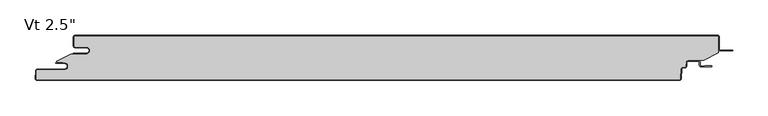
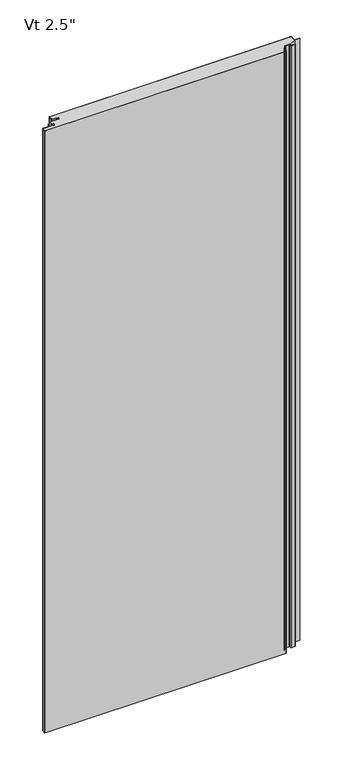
"""IFC4 building model written with IfcOpenShell, lengths in millimetres: plate geometry."""

import ifcopenshell
import ifcopenshell.guid

model = None  # the IFC model being written
_history = None  # IfcOwnerHistory: only IFC2X3 demands one
_inside = {}  # id of a spatial element -> (the spatial element, [elements in it])
_under = {}  # id of a project, library or spatial element -> (it, [spatial elements below it])
_declared = {}  # id of a project -> (the project, [libraries it declares])
_typed = {}  # id of a type object -> (the type object, [elements of that type])
_made_of = {}  # id of a material, layer set ... -> (it, [elements and type objects made of it])


def new_model(schema):
    """Start an empty IFC model of exactly this schema.

    Asked for "IFC4X3", IfcOpenShell would pick the latest addendum, in which some entities
    have other attributes; the version numbers below select the first issue.
    IFC2X3 requires an IfcOwnerHistory on every rooted entity: one is made here for all.
    """
    global model, _history
    if schema == "IFC4X3":
        model = ifcopenshell.file(schema_version=(4, 3, 0, 0))
    else:
        model = ifcopenshell.file(schema=schema)
    _inside.clear()
    _under.clear()
    _declared.clear()
    _typed.clear()
    _made_of.clear()
    _history = None
    if model.schema == "IFC2X3":
        org = make("IfcOrganization", Name="unknown")
        user = make(
            "IfcPersonAndOrganization",
            ThePerson=make("IfcPerson", FamilyName="unknown"),
            TheOrganization=org,
        )
        app = make(
            "IfcApplication",
            ApplicationDeveloper=org,
            Version="unknown",
            ApplicationFullName="unknown",
            ApplicationIdentifier="unknown",
        )
        _history = make(
            "IfcOwnerHistory",
            OwningUser=user,
            OwningApplication=app,
            ChangeAction="ADDED",
            CreationDate=0,
        )
    return model


def make(cls, **values):
    """One entity of the class cls with the attributes given. An attribute that is None is left unset."""
    return model.create_entity(
        cls, **{name: value for name, value in values.items() if value is not None}
    )


def rooted(cls, **values):
    """An entity with a GlobalId (a new one), such as an element, a storey or a relation."""
    return make(cls, GlobalId=ifcopenshell.guid.new(), OwnerHistory=_history, **values)


def si_unit(unit_type, name, prefix=None):
    """IfcSIUnit, for example si_unit("LENGTHUNIT", "METRE", prefix="MILLI")."""
    return make("IfcSIUnit", UnitType=unit_type, Prefix=prefix, Name=name)


def assignment(units):
    """IfcUnitAssignment: the units of a project."""
    return None if units is None else make("IfcUnitAssignment", Units=units)


def point(xyz):
    """IfcCartesianPoint."""
    return None if xyz is None else make("IfcCartesianPoint", Coordinates=xyz)


def direction(xyz):
    """IfcDirection."""
    return None if xyz is None else make("IfcDirection", DirectionRatios=xyz)


def frame(location, z_axis=None, x_axis=None):
    """IfcAxis2Placement3D, a coordinate frame: its origin and axes. An axis left out is left unset."""
    return make(
        "IfcAxis2Placement3D",
        Location=point(location),
        Axis=direction(z_axis),
        RefDirection=direction(x_axis),
    )


def frame_2d(location, x_axis=None):
    """IfcAxis2Placement2D, a coordinate frame in the plane: its origin and x axis."""
    return make(
        "IfcAxis2Placement2D", Location=point(location), RefDirection=direction(x_axis)
    )


def origin():
    """The frame at (0, 0, 0) with its axes left unset."""
    return frame((0.0, 0.0, 0.0))


def origin_with_axes():
    """The frame at (0, 0, 0) with the z axis (0, 0, 1) and the x axis (1, 0, 0) written out."""
    return frame((0.0, 0.0, 0.0), z_axis=(0.0, 0.0, 1.0), x_axis=(1.0, 0.0, 0.0))


def place(relative_to, where):
    """IfcLocalPlacement: puts the frame where relative to a parent placement (None: the world)."""
    return make(
        "IfcLocalPlacement", PlacementRelTo=relative_to, RelativePlacement=where
    )


def context(
    kind, dimensions, precision=None, world=None, true_north=None, identifier=None
):
    """IfcGeometricRepresentationContext, for example the 3D "Model" context."""
    return make(
        "IfcGeometricRepresentationContext",
        ContextIdentifier=identifier,
        ContextType=kind,
        CoordinateSpaceDimension=dimensions,
        Precision=precision,
        WorldCoordinateSystem=world,
        TrueNorth=true_north,
    )


def project(units=None, contexts=None):
    """IfcProject with its units and contexts."""
    return rooted(
        "IfcProject",
        Name="project",
        RepresentationContexts=contexts,
        UnitsInContext=assignment(units),
    )


def spatial(cls, under=None, at=None, **own):
    """A site, building, storey or space (cls), placed at a placement, below another one or the project."""
    s = rooted(cls, ObjectPlacement=at, **own)
    if under is not None:
        _under.setdefault(under.id(), (under, []))[1].append(s)
    return s


def polyline(points):
    """IfcPolyline through the points."""
    return make("IfcPolyline", Points=[point(p) for p in points])


def circle_curve(where, radius):
    """IfcCircle in the frame where."""
    return make("IfcCircle", Position=where, Radius=radius)


def ellipse_curve(where, semi_axis1, semi_axis2):
    """IfcEllipse in the frame where."""
    return make(
        "IfcEllipse", Position=where, SemiAxis1=semi_axis1, SemiAxis2=semi_axis2
    )


def trimmed(basis, trim1, trim2, sense, master):
    """IfcTrimmedCurve: the piece of a basis curve between two trims."""
    return make(
        "IfcTrimmedCurve",
        BasisCurve=basis,
        Trim1=trim1,
        Trim2=trim2,
        SenseAgreement=sense,
        MasterRepresentation=master,
    )


def segment(curve, same_sense, transition):
    """IfcCompositeCurveSegment."""
    return make(
        "IfcCompositeCurveSegment",
        Transition=transition,
        SameSense=same_sense,
        ParentCurve=curve,
    )


def composite_curve(segments, self_intersect=None):
    """IfcCompositeCurve: segments joined end to end."""
    return make("IfcCompositeCurve", Segments=segments, SelfIntersect=self_intersect)


def outline(outer, holes=None, kind="AREA"):
    """IfcArbitraryClosedProfileDef: a profile drawn as a closed curve; with holes, ...WithVoids."""
    if holes is None:
        return make("IfcArbitraryClosedProfileDef", ProfileType=kind, OuterCurve=outer)
    return make(
        "IfcArbitraryProfileDefWithVoids",
        ProfileType=kind,
        OuterCurve=outer,
        InnerCurves=holes,
    )


def extrude(swept, where, along, depth):
    """IfcExtrudedAreaSolid: the profile swept, set in the frame where, extruded along a direction by depth."""
    return make(
        "IfcExtrudedAreaSolid",
        SweptArea=swept,
        Position=where,
        ExtrudedDirection=direction(along),
        Depth=depth,
    )


def shape(context_of_items, identifier, shape_type, items):
    """IfcShapeRepresentation: the items that make up one representation, for example the "Body"."""
    return make(
        "IfcShapeRepresentation",
        ContextOfItems=context_of_items,
        RepresentationIdentifier=identifier,
        RepresentationType=shape_type,
        Items=items,
    )


def source(mapping_origin, context_of_items, identifier, shape_type, items):
    """IfcRepresentationMap: a shape defined once, which mapped items show again and again."""
    return make(
        "IfcRepresentationMap",
        MappingOrigin=mapping_origin,
        MappedRepresentation=shape(context_of_items, identifier, shape_type, items),
    )


def transform(
    local_origin,
    x_axis=None,
    y_axis=None,
    z_axis=None,
    scale=None,
    scale2=None,
    scale3=None,
    uniform=True,
):
    """IfcCartesianTransformationOperator3D, or its non-uniform kind. x_axis, y_axis, z_axis: its Axis1, 2, 3."""
    if uniform:
        return make(
            "IfcCartesianTransformationOperator3D",
            Axis1=direction(x_axis),
            Axis2=direction(y_axis),
            LocalOrigin=point(local_origin),
            Scale=scale,
            Axis3=direction(z_axis),
        )
    return make(
        "IfcCartesianTransformationOperator3DnonUniform",
        Axis1=direction(x_axis),
        Axis2=direction(y_axis),
        LocalOrigin=point(local_origin),
        Scale=scale,
        Axis3=direction(z_axis),
        Scale2=scale2,
        Scale3=scale3,
    )


def mapped(mapping_source, mapping_target):
    """IfcMappedItem: shows the shape of a source again, moved by a transform."""
    return make(
        "IfcMappedItem", MappingSource=mapping_source, MappingTarget=mapping_target
    )


def made_of(thing, what):
    """Note that an element or type object is made of a material, layer set ...; save() writes the relation."""
    if what is not None:
        _made_of.setdefault(what.id(), (what, []))[1].append(thing)
    return thing


def element(
    cls,
    number,
    at=None,
    inside=None,
    cuts=None,
    type_object=None,
    material=None,
    context=None,
    identifier="Body",
    shape_type=None,
    held_by="IfcProductDefinitionShape",
    body=None,
    shapes=None,
    **own,
):
    """One element of the class cls, such as IfcWall. Its Tag is "e" and its number.

    at: its placement. inside: the storey or other place that contains it. cuts: it is an
    opening in that element (IfcRelVoidsElement). A single representation is given by context,
    identifier, shape_type and body (its items); several are given by shapes. held_by: the class
    of the entity that holds the representations. save() writes the other relations.
    """
    e = rooted(cls, Tag="e%d" % number, ObjectPlacement=at, **own)
    if body is not None:
        shapes = [shape(context, identifier, shape_type, body)]
    if shapes is not None:
        e.Representation = make(held_by, Representations=shapes)
    if inside is not None:
        _inside.setdefault(inside.id(), (inside, []))[1].append(e)
    if cuts is not None:
        rooted(
            "IfcRelVoidsElement", RelatingBuildingElement=cuts, RelatedOpeningElement=e
        )
    if type_object is not None:
        _typed.setdefault(type_object.id(), (type_object, []))[1].append(e)
    return made_of(e, material)


def aggregate(whole, parts):
    """IfcRelAggregates: a whole, such as a stair, and the parts it consists of."""
    return rooted("IfcRelAggregates", RelatingObject=whole, RelatedObjects=parts)


def save(model, path):
    """Write the relations noted so far, then the file.

    IfcRelAggregates (storeys below a building ...), IfcRelContainedInSpatialStructure (elements
    in a storey), IfcRelDefinesByType, IfcRelAssociatesMaterial and IfcRelDeclares: one each for
    every whole, place, type object, material and project.
    """
    for whole, parts in _under.values():
        aggregate(whole, parts)
    for where, things in _inside.values():
        rooted(
            "IfcRelContainedInSpatialStructure",
            RelatedElements=things,
            RelatingStructure=where,
        )
    for kind, things in _typed.values():
        rooted("IfcRelDefinesByType", RelatedObjects=things, RelatingType=kind)
    for what, things in _made_of.values():
        rooted("IfcRelAssociatesMaterial", RelatedObjects=things, RelatingMaterial=what)
    for by, libraries in _declared.values():
        rooted("IfcRelDeclares", RelatingContext=by, RelatedDefinitions=libraries)
    model.write(path)


def plane_surface(at):
    """IfcPlane: the flat surface through the origin of the frame at, square to its z axis."""
    return make("IfcPlane", Position=at)


def cylinder_surface(at, radius):
    """IfcCylindricalSurface: all points at the distance radius from the z axis of the frame at."""
    return make("IfcCylindricalSurface", Position=at, Radius=radius)


def revolved_surface(curve, axis_point, axis_direction):
    """IfcSurfaceOfRevolution: the curve turned about the line through axis_point along axis_direction."""
    return make(
        "IfcSurfaceOfRevolution",
        SweptCurve=make("IfcArbitraryOpenProfileDef", ProfileType="CURVE", Curve=curve),
        AxisPosition=make("IfcAxis1Placement", Location=point(axis_point), Axis=direction(axis_direction)),
    )


def extruded_surface(curve, direction_of_extrusion, depth):
    """IfcSurfaceOfLinearExtrusion: the curve pushed along a direction by depth."""
    return make(
        "IfcSurfaceOfLinearExtrusion",
        SweptCurve=make("IfcArbitraryOpenProfileDef", ProfileType="CURVE", Curve=curve),
        ExtrudedDirection=direction(direction_of_extrusion),
        Depth=depth,
    )


def advanced_brep(points, edges, surfaces, faces):
    """IfcAdvancedBrep: a solid bounded by faces that lie on surfaces and meet in shared edges.

    An edge is (start, end): straight between two places in points (the first is 0);
    or (start, end, curve); or (start, end, curve, False) where it runs against its curve.
    A face is (place in surfaces, loops), or (place, loops, False) where it looks against
    its surface's normal. A loop lists edges by number (the first is 1), with a minus sign
    where the edge is run from its end to its start. The first loop is the outer one.
    """
    corners = [point(p) for p in points]
    vertices = [make("IfcVertexPoint", VertexGeometry=c) for c in corners]
    made = []
    for start, end, *more in edges:
        made.append(
            make(
                "IfcEdgeCurve",
                EdgeStart=vertices[start],
                EdgeEnd=vertices[end],
                EdgeGeometry=more[0] if more else make("IfcPolyline", Points=[corners[start], corners[end]]),
                SameSense=more[1] if len(more) > 1 else True,
            )
        )
    hull = []
    for where, loops, *sense in faces:
        bounds = []
        for j, loop in enumerate(loops):
            ring = [make("IfcOrientedEdge", EdgeElement=made[abs(k) - 1], Orientation=k > 0) for k in loop]
            bounds.append(
                make(
                    "IfcFaceOuterBound" if j == 0 else "IfcFaceBound",
                    Bound=make("IfcEdgeLoop", EdgeList=ring),
                    Orientation=True,
                )
            )
        hull.append(make("IfcAdvancedFace", Bounds=bounds, FaceSurface=surfaces[where], SameSense=sense[0] if sense else True))
    return make("IfcAdvancedBrep", Outer=make("IfcClosedShell", CfsFaces=hull))


def plate_e8ed7b3b(model_context):
    return source(origin(), model_context, "Body", "SolidModel", [
        extrude(outline(composite_curve([segment(polyline([(-438.14375, -16.4625), (-454.01875, -16.4625)]), True, "CONTINUOUS"), segment(trimmed(circle_curve(frame_2d((-454.01875, -15.08125)), 1.38125), [point((-454.01875, -16.4625))], [point((-455.4, -15.08125))], False, "CARTESIAN"), True, "CONTINUOUS"), segment(polyline([(-455.4, -15.08125), (-455.4, -2.38125)]), True, "CONTINUOUS"), segment(trimmed(circle_curve(frame_2d((-454.01875, -2.38125)), 1.38125), [point((-455.4, -2.38125))], [point((-454.01875, -1.0))], False, "CARTESIAN"), True, "CONTINUOUS"), segment(polyline([(-454.01875, -1.0), (454.03125, -1.0)]), True, "CONTINUOUS"), segment(trimmed(circle_curve(frame_2d((454.03125, -2.38125)), 1.38125), [point((454.03125, -1.0))], [point((455.4125, -2.38125))], False, "CARTESIAN"), True, "CONTINUOUS"), segment(polyline([(455.4125, -2.38125), (455.4125, -24.9057308), (434.5955434, -35.5125), (412.1540783, -35.5125)]), True, "CONTINUOUS"), segment(trimmed(circle_curve(frame_2d((412.1540783, -38.1)), 2.5875), [point((412.1540783, -35.5125))], [point((409.5701244, -37.9645807))], True, "CARTESIAN"), True, "CONTINUOUS"), segment(polyline([(409.5701244, -37.9645807), (409.2680481, -43.728539)]), True, "CONTINUOUS"), segment(trimmed(circle_curve(frame_2d((407.8886911, -43.65625)), 1.38125), [point((409.2680481, -43.728539))], [point((407.8886911, -45.0375))], False, "CARTESIAN"), True, "CONTINUOUS"), segment(polyline([(407.8886911, -45.0375), (404.8448847, -45.0375)]), True, "CONTINUOUS"), segment(trimmed(circle_curve(frame_2d((404.8448847, -47.625)), 2.5875), [point((404.8448847, -45.0375))], [point((402.2609307, -47.4895807))], True, "CARTESIAN"), True, "CONTINUOUS"), segment(polyline([(402.2609307, -47.4895807), (401.5428677, -61.191039)]), True, "CONTINUOUS"), segment(trimmed(circle_curve(frame_2d((400.1635107, -61.11875)), 1.38125), [point((401.5428677, -61.191039))], [point((400.1635107, -62.5))], False, "CARTESIAN"), True, "CONTINUOUS"), segment(polyline([(400.1635107, -62.5), (-507.8799535, -62.5)]), True, "CONTINUOUS"), segment(trimmed(circle_curve(frame_2d((-507.8799535, -61.11875)), 1.38125), [point((-507.8799535, -62.5))], [point((-509.2593106, -61.046461))], False, "CARTESIAN"), True, "CONTINUOUS"), segment(polyline([(-509.2593106, -61.046461), (-508.6769291, -49.933961)]), True, "CONTINUOUS"), segment(trimmed(circle_curve(frame_2d((-507.2975721, -50.00625)), 1.38125), [point((-508.6769291, -49.933961))], [point((-507.2975721, -48.625))], False, "CARTESIAN"), True, "CONTINUOUS"), segment(polyline([(-507.2975721, -48.625), (-469.1142674, -48.625)]), True, "CONTINUOUS"), segment(trimmed(circle_curve(frame_2d((-469.1142674, -43.65625)), 4.96875), [point((-469.1142674, -48.625))], [point((-469.1142674, -38.6875))], True, "CARTESIAN"), True, "CONTINUOUS"), segment(polyline([(-469.1142674, -38.6875), (-470.7017674, -38.89375), (-470.7017674, -38.1), (-480.2125, -38.1), (-480.2125, -36.5326309), (-460.3260922, -26.4), (-438.14375, -26.4)]), True, "CONTINUOUS"), segment(trimmed(circle_curve(frame_2d((-438.14375, -21.43125)), 4.96875), [point((-438.14375, -26.4))], [point((-438.14375, -16.4625))], True, "CARTESIAN"), True, "CONTINUOUS")], self_intersect=False)), origin_with_axes(), (0.0, 0.0, 1.0), 2400.0),
        extrude(outline(composite_curve([segment(polyline([(-456.4, -25.4), (-438.14375, -25.4)]), True, "CONTINUOUS"), segment(trimmed(circle_curve(frame_2d((-438.14375, -21.43125)), 3.96875), [point((-438.14375, -25.4))], [point((-438.14375, -17.4625))], True, "CARTESIAN"), True, "CONTINUOUS"), segment(polyline([(-438.14375, -17.4625), (-454.01875, -17.4625)]), True, "CONTINUOUS"), segment(trimmed(circle_curve(frame_2d((-454.01875, -15.08125)), 2.38125), [point((-454.01875, -17.4625))], [point((-456.4, -15.08125))], False, "CARTESIAN"), True, "CONTINUOUS"), segment(polyline([(-456.4, -15.08125), (-456.4, -2.38125)]), True, "CONTINUOUS"), segment(trimmed(circle_curve(frame_2d((-454.01875, -2.38125)), 2.38125), [point((-456.4, -2.38125))], [point((-454.01875, 0.0))], False, "CARTESIAN"), True, "CONTINUOUS"), segment(polyline([(-454.01875, 0.0), (454.03125, 0.0)]), True, "CONTINUOUS"), segment(trimmed(circle_curve(frame_2d((454.03125, -2.38125)), 2.38125), [point((454.03125, 0.0))], [point((456.4125, -2.38125))], False, "CARTESIAN"), True, "CONTINUOUS"), segment(polyline([(456.4125, -2.38125), (456.4125, -19.446875)]), True, "CONTINUOUS"), segment(trimmed(circle_curve(frame_2d((458.0, -19.446875)), 1.5875), [point((456.4125, -19.446875))], [point((458.0, -21.034375))], True, "CARTESIAN"), True, "CONTINUOUS"), segment(polyline([(458.0, -21.034375), (475.4625, -21.034375), (475.4625, -22.034375), (458.0, -22.034375)]), True, "CONTINUOUS"), segment(trimmed(circle_curve(frame_2d((458.0, -19.446875)), 2.5875), [point((458.0, -22.034375))], [point((455.4125, -19.446875))], False, "CARTESIAN"), True, "CONTINUOUS"), segment(polyline([(455.4125, -19.446875), (455.4125, -2.38125)]), True, "CONTINUOUS"), segment(trimmed(circle_curve(frame_2d((454.03125, -2.38125)), 1.38125), [point((455.4125, -2.38125))], [point((454.03125, -1.0))], True, "CARTESIAN"), True, "CONTINUOUS"), segment(polyline([(454.03125, -1.0), (-454.01875, -1.0)]), True, "CONTINUOUS"), segment(trimmed(circle_curve(frame_2d((-454.01875, -2.38125)), 1.38125), [point((-454.01875, -1.0))], [point((-455.4, -2.38125))], True, "CARTESIAN"), True, "CONTINUOUS"), segment(polyline([(-455.4, -2.38125), (-455.4, -15.08125)]), True, "CONTINUOUS"), segment(trimmed(circle_curve(frame_2d((-454.01875, -15.08125)), 1.38125), [point((-455.4, -15.08125))], [point((-454.01875, -16.4625))], True, "CARTESIAN"), True, "CONTINUOUS"), segment(polyline([(-454.01875, -16.4625), (-438.14375, -16.4625)]), True, "CONTINUOUS"), segment(trimmed(circle_curve(frame_2d((-438.14375, -21.43125)), 4.96875), [point((-438.14375, -16.4625))], [point((-438.14375, -26.4))], False, "CARTESIAN"), True, "CONTINUOUS"), segment(polyline([(-438.14375, -26.4), (-456.4, -26.4), (-456.4, -25.4)]), True, "CONTINUOUS")], self_intersect=False)), origin_with_axes(), (0.0, 0.0, 1.0), 2400.0),
        advanced_brep(
        [(-480.4252049, -38.1, 2400.0), (-480.4252049, -39.6875, 2400.0), (-469.1142674, -39.6875, 2400.0), (-469.1142674, -47.625, 2400.0), (-507.2975721, -47.625, 2400.0), (-509.6755586, -49.881625, 2400.0), (-510.2579401, -60.994125, 2400.0), (-507.8799535, -63.5, 2400.0), (400.1635107, -63.5, 2400.0), (402.5414973, -61.243375, 2400.0), (403.2595603, -47.5419167, 2400.0), (404.8448847, -46.0375, 2400.0), (407.8886911, -46.0375, 2400.0), (410.2666776, -43.780875, 2400.0), (410.5687539, -38.0169167, 2400.0), (412.1540783, -36.5125, 2400.0), (427.0294826, -36.5125, 2400.0), (428.6169826, -38.1, 2400.0), (428.6169826, -42.2671875, 2400.0), (430.9982326, -44.6484375, 2400.0), (445.4898532, -44.6484375, 2400.0), (445.4898532, -42.8546875, 2400.0), (435.7607326, -42.8546875, 2400.0), (435.7607326, -43.6484375, 2400.0), (430.9982326, -43.6484375, 2400.0), (429.6169826, -42.2671875, 2400.0), (429.6169826, -38.1, 2400.0), (427.0294826, -35.5125, 2400.0), (412.1540783, -35.5125, 2400.0), (409.5701244, -37.9645807, 2400.0), (409.2680481, -43.728539, 2400.0), (407.8886911, -45.0375, 2400.0), (404.8448847, -45.0375, 2400.0), (402.2609307, -47.4895807, 2400.0), (401.5428677, -61.191039, 2400.0), (400.1635107, -62.5, 2400.0), (-507.8799535, -62.5, 2400.0), (-509.2593106, -61.046461, 2400.0), (-508.6769291, -49.933961, 2400.0), (-507.2975721, -48.625, 2400.0), (-469.1142674, -48.625, 2400.0), (-469.1142674, -38.6875, 2400.0), (-470.7017674, -38.89375, 2400.0), (-470.7017674, -38.1, 2400.0), (-480.4252049, -38.1, 0.0), (-470.7017674, -38.1, 0.0), (-470.7017674, -38.89375, 0.0), (-469.1142674, -38.6875, 0.0), (-469.1142674, -48.625, 0.0), (-507.2975721, -48.625, 0.0), (-508.6769291, -49.933961, 0.0), (-509.2593106, -61.046461, 0.0), (-507.8799535, -62.5, 0.0), (400.1635107, -62.5, 0.0), (401.5428677, -61.191039, 0.0), (402.2609307, -47.4895807, 0.0), (404.8448847, -45.0375, 0.0), (407.8886911, -45.0375, 0.0), (409.2680481, -43.728539, 0.0), (409.5701244, -37.9645807, 0.0), (412.1540783, -35.5125, 0.0), (427.0294826, -35.5125, 0.0), (429.6169826, -38.1, 0.0), (429.6169826, -42.2671875, 0.0), (430.9982326, -43.6484375, 0.0), (435.7607326, -43.6484375, 0.0), (435.7607326, -42.8546875, 0.0), (445.4898532, -42.8546875, 0.0), (445.4898532, -44.6484375, 0.0), (430.9982326, -44.6484375, 0.0), (428.6169826, -42.2671875, 0.0), (428.6169826, -38.1, 0.0), (427.0294826, -36.5125, 0.0), (412.1540783, -36.5125, 0.0), (410.5687539, -38.0169167, 0.0), (410.2666776, -43.780875, 0.0), (407.8886911, -46.0375, 0.0), (404.8448847, -46.0375, 0.0), (403.2595603, -47.5419167, 0.0), (402.5414973, -61.243375, 0.0), (400.1635107, -63.5, 0.0), (-507.8799535, -63.5, 0.0), (-510.2579401, -60.994125, 0.0), (-509.6755586, -49.881625, 0.0), (-507.2975721, -47.625, 0.0), (-469.1142674, -47.625, 0.0), (-469.1142674, -39.6875, 0.0), (-480.4252049, -39.6875, 0.0)],
        [
            (0, 1, circle_curve(frame((-480.4252049, -38.89375, 2400.0), z_axis=(0.0, 0.0, 1.0), x_axis=(1.0, 0.0, 0.0)), 0.79375)),
            (1, 2),
            (2, 3, circle_curve(frame((-469.1142674, -43.65625, 2400.0), z_axis=(0.0, 0.0, -1.0), x_axis=(1.0, 0.0, 0.0)), 3.96875)),
            (3, 4),
            (4, 5, circle_curve(frame((-507.2975721, -50.00625, 2400.0), z_axis=(0.0, 0.0, 1.0), x_axis=(1.0, 0.0, 0.0)), 2.38125)),
            (5, 6),
            (6, 7, circle_curve(frame((-507.8799535, -61.11875, 2400.0), z_axis=(0.0, 0.0, 1.0), x_axis=(1.0, 0.0, 0.0)), 2.38125)),
            (7, 8),
            (8, 9, circle_curve(frame((400.1635107, -61.11875, 2400.0), z_axis=(0.0, 0.0, 1.0), x_axis=(1.0, 0.0, 0.0)), 2.38125)),
            (9, 10),
            (10, 11, circle_curve(frame((404.8448847, -47.625, 2400.0), z_axis=(0.0, 0.0, -1.0), x_axis=(1.0, 0.0, 0.0)), 1.5875)),
            (11, 12),
            (12, 13, circle_curve(frame((407.8886911, -43.65625, 2400.0), z_axis=(0.0, 0.0, 1.0), x_axis=(1.0, 0.0, 0.0)), 2.38125)),
            (13, 14),
            (14, 15, circle_curve(frame((412.1540783, -38.1, 2400.0), z_axis=(0.0, 0.0, -1.0), x_axis=(1.0, 0.0, 0.0)), 1.5875)),
            (15, 16),
            (16, 17, circle_curve(frame((427.0294826, -38.1, 2400.0), z_axis=(0.0, 0.0, -1.0), x_axis=(1.0, 0.0, 0.0)), 1.5875)),
            (17, 18),
            (18, 19, circle_curve(frame((430.9982326, -42.2671875, 2400.0), z_axis=(0.0, 0.0, 1.0), x_axis=(1.0, 0.0, 0.0)), 2.38125)),
            (19, 20),
            (20, 21, ellipse_curve(frame((445.4898532, -43.7515625, 2400.0), z_axis=(0.0, 0.0, 1.0), x_axis=(0.0, 1.0, 0.0)), 0.896875, 0.7852275)),
            (21, 22),
            (22, 23),
            (23, 24),
            (24, 25, circle_curve(frame((430.9982326, -42.2671875, 2400.0), z_axis=(0.0, 0.0, -1.0), x_axis=(1.0, 0.0, 0.0)), 1.38125)),
            (25, 26),
            (26, 27, circle_curve(frame((427.0294826, -38.1, 2400.0), z_axis=(0.0, 0.0, 1.0), x_axis=(1.0, 0.0, 0.0)), 2.5875)),
            (27, 28),
            (28, 29, circle_curve(frame((412.1540783, -38.1, 2400.0), z_axis=(0.0, 0.0, 1.0), x_axis=(1.0, 0.0, 0.0)), 2.5875)),
            (29, 30),
            (30, 31, circle_curve(frame((407.8886911, -43.65625, 2400.0), z_axis=(0.0, 0.0, -1.0), x_axis=(1.0, 0.0, 0.0)), 1.38125)),
            (31, 32),
            (32, 33, circle_curve(frame((404.8448847, -47.625, 2400.0), z_axis=(0.0, 0.0, 1.0), x_axis=(1.0, 0.0, 0.0)), 2.5875)),
            (33, 34),
            (34, 35, circle_curve(frame((400.1635107, -61.11875, 2400.0), z_axis=(0.0, 0.0, -1.0), x_axis=(1.0, 0.0, 0.0)), 1.38125)),
            (35, 36),
            (36, 37, circle_curve(frame((-507.8799535, -61.11875, 2400.0), z_axis=(0.0, 0.0, -1.0), x_axis=(1.0, 0.0, 0.0)), 1.38125)),
            (37, 38),
            (38, 39, circle_curve(frame((-507.2975721, -50.00625, 2400.0), z_axis=(0.0, 0.0, -1.0), x_axis=(1.0, 0.0, 0.0)), 1.38125)),
            (39, 40),
            (40, 41, circle_curve(frame((-469.1142674, -43.65625, 2400.0), z_axis=(0.0, 0.0, 1.0), x_axis=(1.0, 0.0, 0.0)), 4.96875)),
            (41, 42),
            (42, 43),
            (43, 0),
            (44, 45),
            (45, 46),
            (46, 47),
            (47, 48, circle_curve(frame((-469.1142674, -43.65625, 0.0), z_axis=(0.0, 0.0, -1.0), x_axis=(1.0, 0.0, 0.0)), 4.96875)),
            (48, 49),
            (49, 50, circle_curve(frame((-507.2975721, -50.00625, 0.0), z_axis=(0.0, 0.0, 1.0), x_axis=(1.0, 0.0, 0.0)), 1.38125)),
            (50, 51),
            (51, 52, circle_curve(frame((-507.8799535, -61.11875, 0.0), z_axis=(0.0, 0.0, 1.0), x_axis=(1.0, 0.0, 0.0)), 1.38125)),
            (52, 53),
            (53, 54, circle_curve(frame((400.1635107, -61.11875, 0.0), z_axis=(0.0, 0.0, 1.0), x_axis=(1.0, 0.0, 0.0)), 1.38125)),
            (54, 55),
            (55, 56, circle_curve(frame((404.8448847, -47.625, 0.0), z_axis=(0.0, 0.0, -1.0), x_axis=(1.0, 0.0, 0.0)), 2.5875)),
            (56, 57),
            (57, 58, circle_curve(frame((407.8886911, -43.65625, 0.0), z_axis=(0.0, 0.0, 1.0), x_axis=(1.0, 0.0, 0.0)), 1.38125)),
            (58, 59),
            (59, 60, circle_curve(frame((412.1540783, -38.1, 0.0), z_axis=(0.0, 0.0, -1.0), x_axis=(1.0, 0.0, 0.0)), 2.5875)),
            (60, 61),
            (61, 62, circle_curve(frame((427.0294826, -38.1, 0.0), z_axis=(0.0, 0.0, -1.0), x_axis=(1.0, 0.0, 0.0)), 2.5875)),
            (62, 63),
            (63, 64, circle_curve(frame((430.9982326, -42.2671875, 0.0), z_axis=(0.0, 0.0, 1.0), x_axis=(1.0, 0.0, 0.0)), 1.38125)),
            (64, 65),
            (65, 66),
            (66, 67),
            (67, 68, ellipse_curve(frame((445.4898532, -43.7515625, 0.0), z_axis=(0.0, 0.0, -1.0), x_axis=(0.0, 1.0, 0.0)), 0.896875, 0.7852275)),
            (68, 69),
            (69, 70, circle_curve(frame((430.9982326, -42.2671875, 0.0), z_axis=(0.0, 0.0, -1.0), x_axis=(1.0, 0.0, 0.0)), 2.38125)),
            (70, 71),
            (71, 72, circle_curve(frame((427.0294826, -38.1, 0.0), z_axis=(0.0, 0.0, 1.0), x_axis=(1.0, 0.0, 0.0)), 1.5875)),
            (72, 73),
            (73, 74, circle_curve(frame((412.1540783, -38.1, 0.0), z_axis=(0.0, 0.0, 1.0), x_axis=(1.0, 0.0, 0.0)), 1.5875)),
            (74, 75),
            (75, 76, circle_curve(frame((407.8886911, -43.65625, 0.0), z_axis=(0.0, 0.0, -1.0), x_axis=(1.0, 0.0, 0.0)), 2.38125)),
            (76, 77),
            (77, 78, circle_curve(frame((404.8448847, -47.625, 0.0), z_axis=(0.0, 0.0, 1.0), x_axis=(1.0, 0.0, 0.0)), 1.5875)),
            (78, 79),
            (79, 80, circle_curve(frame((400.1635107, -61.11875, 0.0), z_axis=(0.0, 0.0, -1.0), x_axis=(1.0, 0.0, 0.0)), 2.38125)),
            (80, 81),
            (81, 82, circle_curve(frame((-507.8799535, -61.11875, 0.0), z_axis=(0.0, 0.0, -1.0), x_axis=(1.0, 0.0, 0.0)), 2.38125)),
            (82, 83),
            (83, 84, circle_curve(frame((-507.2975721, -50.00625, 0.0), z_axis=(0.0, 0.0, -1.0), x_axis=(1.0, 0.0, 0.0)), 2.38125)),
            (84, 85),
            (85, 86, circle_curve(frame((-469.1142674, -43.65625, 0.0), z_axis=(0.0, 0.0, 1.0), x_axis=(1.0, 0.0, 0.0)), 3.96875)),
            (86, 87),
            (87, 44, circle_curve(frame((-480.4252049, -38.89375, 0.0), z_axis=(0.0, 0.0, -1.0), x_axis=(1.0, 0.0, 0.0)), 0.79375)),
            (20, 68),
            (67, 21),
            (66, 22),
            (65, 23),
            (41, 47),
            (46, 42),
            (45, 43),
            (40, 48),
            (39, 49),
            (38, 50),
            (37, 51),
            (33, 55),
            (54, 34),
            (32, 56),
            (31, 57),
            (30, 58),
            (29, 59),
            (28, 60),
            (64, 24),
            (63, 25),
            (62, 26),
            (61, 27),
            (18, 70),
            (69, 19),
            (17, 71),
            (16, 72),
            (15, 73),
            (14, 74),
            (13, 75),
            (12, 76),
            (11, 77),
            (10, 78),
            (9, 79),
            (5, 83),
            (82, 6),
            (4, 84),
            (3, 85),
            (2, 86),
            (1, 87),
            (0, 44),
            (36, 52),
            (35, 53),
            (8, 80),
            (7, 81),
        ],
        [
            plane_surface(frame((0.00625, -63.5, 2400.0), z_axis=(0.0, 0.0, 1.0), x_axis=(0.0, -1.0, 0.0))),
            plane_surface(frame((0.00625, -63.5, 0.0), z_axis=(0.0, 0.0, -1.0), x_axis=(0.0, -1.0, 0.0))),
            extruded_surface(trimmed(ellipse_curve(frame((445.4898532, -43.7515625, 2400.0), z_axis=(0.0, 0.0, -1.0), x_axis=(0.0, 1.0, 0.0)), 0.896875, 0.7852275), [point((445.4898532, -42.8546875, 2400.0))], [point((445.4898532, -44.6484375, 2400.0))], True, "CARTESIAN"), (0.0, 0.0, -2400.0), 2400.0),
            plane_surface(frame((435.7607326, -42.8546875, 2400.0), z_axis=(0.0, 1.0, 0.0), x_axis=(0.0, 0.0, -1.0))),
            plane_surface(frame((435.7607326, -43.6484375, 2400.0), z_axis=(-1.0, 0.0, 0.0), x_axis=(0.0, 0.0, -1.0))),
            plane_surface(frame((-470.7017674, -38.89375, 2400.0), z_axis=(-0.12883844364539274, 0.9916655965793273, 0.0), x_axis=(0.0, 0.0, -1.0))),
            plane_surface(frame((-470.7017674, -38.1, 2400.0), z_axis=(1.0, 0.0, 0.0), x_axis=(0.0, 0.0, -1.0))),
            cylinder_surface(frame((-469.1142674, -43.65625, 2400.0), z_axis=(0.0, 0.0, 1.0), x_axis=(1.0, 0.0, 0.0)), 4.96875),
            plane_surface(frame((-469.1142674, -48.625, 2400.0), z_axis=(0.0, -1.0, 0.0), x_axis=(0.0, 0.0, -1.0))),
            revolved_surface(polyline([(-505.9163221, -50.00625, 0.0), (-505.9163221, -50.00625, 2400.0)]), (-507.2975721, -50.00625, 2400.0), (0.0, 0.0, -1.0)),
            plane_surface(frame((-508.6769291, -49.933961, 2400.0), z_axis=(0.9986295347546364, -0.05233595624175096, 0.0), x_axis=(0.0, 0.0, -1.0))),
            plane_surface(frame((401.5428677, -61.191039, 2400.0), z_axis=(-0.9986295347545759, 0.05233595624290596, 0.0), x_axis=(0.0, 0.0, -1.0))),
            cylinder_surface(frame((404.8448847, -47.625, 2400.0), z_axis=(0.0, 0.0, 1.0), x_axis=(1.0, 0.0, 0.0)), 2.5875),
            plane_surface(frame((404.8448847, -45.0375, 2400.0), z_axis=(0.0, 1.0, 0.0), x_axis=(0.0, 0.0, -1.0))),
            revolved_surface(polyline([(409.26994110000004, -43.65625, 0.0), (409.26994110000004, -43.65625, 2400.0)]), (407.8886911, -43.65625, 2400.0), (0.0, 0.0, -1.0)),
            plane_surface(frame((409.2680481, -43.728539, 2400.0), z_axis=(-0.998629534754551, 0.05233595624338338, 0.0), x_axis=(0.0, 0.0, -1.0))),
            cylinder_surface(frame((412.1540783, -38.1, 2400.0), z_axis=(0.0, 0.0, 1.0), x_axis=(1.0, 0.0, 0.0)), 2.5875),
            plane_surface(frame((430.9982326, -43.6484375, 2400.0), z_axis=(0.0, 1.0, 0.0), x_axis=(0.0, 0.0, -1.0))),
            revolved_surface(polyline([(432.3794826, -42.2671875, 0.0), (432.3794826, -42.2671875, 2400.0)]), (430.9982326, -42.2671875, 2400.0), (0.0, 0.0, -1.0)),
            plane_surface(frame((429.6169826, -38.1, 2400.0), z_axis=(1.0, 0.0, 0.0), x_axis=(0.0, 0.0, -1.0))),
            cylinder_surface(frame((427.0294826, -38.1, 2400.0), z_axis=(0.0, 0.0, 1.0), x_axis=(1.0, 0.0, 0.0)), 2.5875),
            plane_surface(frame((412.1540783, -35.5125, 2400.0), z_axis=(0.0, 1.0, 0.0), x_axis=(0.0, 0.0, -1.0))),
            cylinder_surface(frame((430.9982326, -42.2671875, 2400.0), z_axis=(0.0, 0.0, 1.0), x_axis=(1.0, 0.0, 0.0)), 2.38125),
            plane_surface(frame((428.6169826, -42.2671875, 2400.0), z_axis=(-1.0, 0.0, 0.0), x_axis=(0.0, 0.0, -1.0))),
            revolved_surface(polyline([(428.6169826, -38.1, 0.0), (428.6169826, -38.1, 2400.0)]), (427.0294826, -38.1, 2400.0), (0.0, 0.0, -1.0)),
            plane_surface(frame((427.0294826, -36.5125, 2400.0), z_axis=(0.0, -1.0, 0.0), x_axis=(0.0, 0.0, -1.0))),
            revolved_surface(polyline([(413.74157829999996, -38.1, 0.0), (413.74157829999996, -38.1, 2400.0)]), (412.1540783, -38.1, 2400.0), (0.0, 0.0, -1.0)),
            plane_surface(frame((410.5687539, -38.0169167, 2400.0), z_axis=(0.9986295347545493, -0.05233595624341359, 0.0), x_axis=(0.0, 0.0, -1.0))),
            cylinder_surface(frame((407.8886911, -43.65625, 2400.0), z_axis=(0.0, 0.0, 1.0), x_axis=(1.0, 0.0, 0.0)), 2.38125),
            plane_surface(frame((407.8886911, -46.0375, 2400.0), z_axis=(0.0, -1.0, 0.0), x_axis=(0.0, 0.0, -1.0))),
            revolved_surface(polyline([(406.4323847, -47.625, 0.0), (406.4323847, -47.625, 2400.0)]), (404.8448847, -47.625, 2400.0), (0.0, 0.0, -1.0)),
            plane_surface(frame((403.2595603, -47.5419167, 2400.0), z_axis=(0.9986295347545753, -0.052335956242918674, 0.0), x_axis=(0.0, 0.0, -1.0))),
            plane_surface(frame((-510.2579401, -60.994125, 2400.0), z_axis=(-0.9986295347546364, 0.05233595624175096, 0.0), x_axis=(0.0, 0.0, -1.0))),
            cylinder_surface(frame((-507.2975721, -50.00625, 2400.0), z_axis=(0.0, 0.0, 1.0), x_axis=(1.0, 0.0, 0.0)), 2.38125),
            plane_surface(frame((-507.2975721, -47.625, 2400.0), z_axis=(0.0, 1.0, 0.0), x_axis=(0.0, 0.0, -1.0))),
            revolved_surface(polyline([(-465.1455174, -43.65625, 0.0), (-465.1455174, -43.65625, 2400.0)]), (-469.1142674, -43.65625, 2400.0), (0.0, 0.0, -1.0)),
            plane_surface(frame((-469.1142674, -39.6875, 2400.0), z_axis=(0.0, -1.0, 0.0), x_axis=(0.0, 0.0, -1.0))),
            cylinder_surface(frame((-480.4252049, -38.89375, 2400.0), z_axis=(0.0, 0.0, 1.0), x_axis=(1.0, 0.0, 0.0)), 0.79375),
            plane_surface(frame((-480.4252049, -38.1, 2400.0), z_axis=(0.0, 1.0, 0.0), x_axis=(0.0, 0.0, -1.0))),
            revolved_surface(polyline([(-506.4987035, -61.11875, 0.0), (-506.4987035, -61.11875, 2400.0)]), (-507.8799535, -61.11875, 2400.0), (0.0, 0.0, -1.0)),
            plane_surface(frame((-507.8799535, -62.5, 2400.0), z_axis=(0.0, 1.0, 0.0), x_axis=(0.0, 0.0, -1.0))),
            revolved_surface(polyline([(401.54476070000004, -61.11875, 0.0), (401.54476070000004, -61.11875, 2400.0)]), (400.1635107, -61.11875, 2400.0), (0.0, 0.0, -1.0)),
            plane_surface(frame((445.4898532, -44.6484375, 2400.0), z_axis=(0.0, -1.0, 0.0), x_axis=(0.0, 0.0, -1.0))),
            cylinder_surface(frame((400.1635107, -61.11875, 2400.0), z_axis=(0.0, 0.0, 1.0), x_axis=(1.0, 0.0, 0.0)), 2.38125),
            plane_surface(frame((400.1635107, -63.5, 2400.0), z_axis=(0.0, -1.0, 0.0), x_axis=(0.0, 0.0, -1.0))),
            cylinder_surface(frame((-507.8799535, -61.11875, 2400.0), z_axis=(0.0, 0.0, 1.0), x_axis=(1.0, 0.0, 0.0)), 2.38125),
        ],
        [
            (0, [[1, 2, 3, 4, 5, 6, 7, 8, 9, 10, 11, 12, 13, 14, 15, 16, 17, 18, 19, 20, 21, 22, 23, 24, 25, 26, 27, 28, 29, 30, 31, 32, 33, 34, 35, 36, 37, 38, 39, 40, 41, 42, 43, 44]]),
            (1, [[45, 46, 47, 48, 49, 50, 51, 52, 53, 54, 55, 56, 57, 58, 59, 60, 61, 62, 63, 64, 65, 66, 67, 68, 69, 70, 71, 72, 73, 74, 75, 76, 77, 78, 79, 80, 81, 82, 83, 84, 85, 86, 87, 88]]),
            (2, [[89, -68, 90, -21]]),
            (3, [[-90, -67, 91, -22]]),
            (4, [[-91, -66, 92, -23]]),
            (5, [[93, -47, 94, -42]]),
            (6, [[-94, -46, 95, -43]]),
            (7, [[96, -48, -93, -41]]),
            (8, [[97, -49, -96, -40]]),
            (9, [[98, -50, -97, -39]]),
            (10, [[99, -51, -98, -38]]),
            (11, [[100, -55, 101, -34]]),
            (12, [[102, -56, -100, -33]]),
            (13, [[103, -57, -102, -32]]),
            (14, [[104, -58, -103, -31]]),
            (15, [[105, -59, -104, -30]]),
            (16, [[106, -60, -105, -29]]),
            (17, [[-92, -65, 107, -24]]),
            (18, [[-107, -64, 108, -25]]),
            (19, [[-108, -63, 109, -26]]),
            (20, [[-109, -62, 110, -27]]),
            (21, [[-110, -61, -106, -28]]),
            (22, [[111, -70, 112, -19]]),
            (23, [[113, -71, -111, -18]]),
            (24, [[114, -72, -113, -17]]),
            (25, [[115, -73, -114, -16]]),
            (26, [[116, -74, -115, -15]]),
            (27, [[117, -75, -116, -14]]),
            (28, [[118, -76, -117, -13]]),
            (29, [[119, -77, -118, -12]]),
            (30, [[120, -78, -119, -11]]),
            (31, [[121, -79, -120, -10]]),
            (32, [[122, -83, 123, -6]]),
            (33, [[124, -84, -122, -5]]),
            (34, [[125, -85, -124, -4]]),
            (35, [[126, -86, -125, -3]]),
            (36, [[127, -87, -126, -2]]),
            (37, [[128, -88, -127, -1]]),
            (38, [[-95, -45, -128, -44]]),
            (39, [[129, -52, -99, -37]]),
            (40, [[130, -53, -129, -36]]),
            (41, [[-101, -54, -130, -35]]),
            (42, [[-112, -69, -89, -20]]),
            (43, [[131, -80, -121, -9]]),
            (44, [[132, -81, -131, -8]]),
            (45, [[-123, -82, -132, -7]]),
        ],
    ),
    ])


if __name__ == "__main__":
    model = new_model("IFC4")
    model_context = context("Model", 3, world=origin())
    ifc_project = project(units=[si_unit("LENGTHUNIT", "METRE", prefix="MILLI")], contexts=[model_context])
    site = spatial("IfcSite", under=ifc_project)
    building = spatial("IfcBuilding", under=site)
    placement = place(None, origin())
    plate_shape = plate_e8ed7b3b(model_context)
    element("IfcPlate", 1, ObjectType="KIP-36-DWTR-R19-CP-Vt-F : Vt 2.5\"", at=placement, inside=building, context=model_context, shape_type="MappedRepresentation", body=[
        mapped(plate_shape, transform((0.0, 0.0, 0.0), x_axis=(1.0, 0.0, 0.0), y_axis=(0.0, 1.0, 0.0), z_axis=(0.0, 0.0, 1.0))),
    ])
    save(model, "model.ifc")
